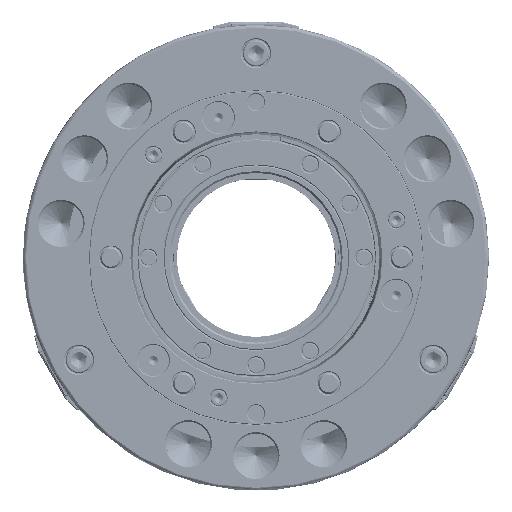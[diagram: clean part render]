
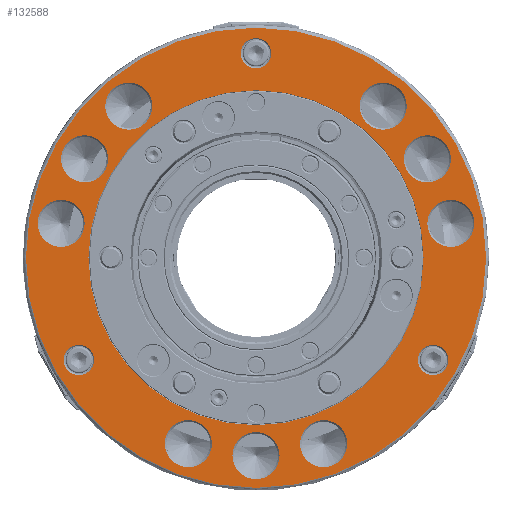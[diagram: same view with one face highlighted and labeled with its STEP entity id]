
A CAD part, front view. The second image highlights one B-rep face of the part: STEP entity #132588.
In plain terms, the highlighted planar face has unit normal (0, -1, 0).
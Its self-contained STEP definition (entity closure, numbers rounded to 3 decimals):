
#36340=PLANE('',#142976);
#37760=FACE_BOUND('',#50267,.T.);
#37761=FACE_BOUND('',#50268,.T.);
#37762=FACE_BOUND('',#50269,.T.);
#37763=FACE_BOUND('',#50270,.T.);
#37764=FACE_BOUND('',#50271,.T.);
#37765=FACE_BOUND('',#50272,.T.);
#37766=FACE_BOUND('',#50273,.T.);
#37767=FACE_BOUND('',#50274,.T.);
#37768=FACE_BOUND('',#50275,.T.);
#37769=FACE_BOUND('',#50276,.T.);
#37770=FACE_BOUND('',#50277,.T.);
#37771=FACE_BOUND('',#50278,.T.);
#37772=FACE_BOUND('',#50279,.T.);
#43110=FACE_OUTER_BOUND('',#50266,.T.);
#50266=EDGE_LOOP('',(#118241));
#50267=EDGE_LOOP('',(#118242));
#50268=EDGE_LOOP('',(#118243));
#50269=EDGE_LOOP('',(#118244));
#50270=EDGE_LOOP('',(#118245));
#50271=EDGE_LOOP('',(#118246));
#50272=EDGE_LOOP('',(#118247));
#50273=EDGE_LOOP('',(#118248));
#50274=EDGE_LOOP('',(#118249));
#50275=EDGE_LOOP('',(#118250));
#50276=EDGE_LOOP('',(#118251));
#50277=EDGE_LOOP('',(#118252));
#50278=EDGE_LOOP('',(#118253));
#50279=EDGE_LOOP('',(#118254));
#53244=CIRCLE('',#142977,261.64);
#53245=CIRCLE('',#142978,17.25);
#53246=CIRCLE('',#142979,17.25);
#53247=CIRCLE('',#142980,26.75);
#53248=CIRCLE('',#142981,26.75);
#53249=CIRCLE('',#142982,26.75);
#53250=CIRCLE('',#142983,26.75);
#53251=CIRCLE('',#142984,26.75);
#53252=CIRCLE('',#142985,26.75);
#53253=CIRCLE('',#142986,17.25);
#53254=CIRCLE('',#142987,26.75);
#53255=CIRCLE('',#142988,26.75);
#53256=CIRCLE('',#142989,26.75);
#53257=CIRCLE('',#142990,190.521);
#64247=VERTEX_POINT('',#216388);
#64248=VERTEX_POINT('',#216390);
#64249=VERTEX_POINT('',#216392);
#64250=VERTEX_POINT('',#216394);
#64251=VERTEX_POINT('',#216396);
#64252=VERTEX_POINT('',#216398);
#64253=VERTEX_POINT('',#216400);
#64254=VERTEX_POINT('',#216402);
#64255=VERTEX_POINT('',#216404);
#64256=VERTEX_POINT('',#216406);
#64257=VERTEX_POINT('',#216408);
#64258=VERTEX_POINT('',#216410);
#64259=VERTEX_POINT('',#216412);
#64260=VERTEX_POINT('',#216414);
#82806=EDGE_CURVE('',#64247,#64247,#53244,.T.);
#82807=EDGE_CURVE('',#64248,#64248,#53245,.T.);
#82808=EDGE_CURVE('',#64249,#64249,#53246,.T.);
#82809=EDGE_CURVE('',#64250,#64250,#53247,.T.);
#82810=EDGE_CURVE('',#64251,#64251,#53248,.T.);
#82811=EDGE_CURVE('',#64252,#64252,#53249,.T.);
#82812=EDGE_CURVE('',#64253,#64253,#53250,.T.);
#82813=EDGE_CURVE('',#64254,#64254,#53251,.T.);
#82814=EDGE_CURVE('',#64255,#64255,#53252,.T.);
#82815=EDGE_CURVE('',#64256,#64256,#53253,.T.);
#82816=EDGE_CURVE('',#64257,#64257,#53254,.T.);
#82817=EDGE_CURVE('',#64258,#64258,#53255,.T.);
#82818=EDGE_CURVE('',#64259,#64259,#53256,.T.);
#82819=EDGE_CURVE('',#64260,#64260,#53257,.T.);
#118241=ORIENTED_EDGE('',*,*,#82806,.F.);
#118242=ORIENTED_EDGE('',*,*,#82807,.F.);
#118243=ORIENTED_EDGE('',*,*,#82808,.F.);
#118244=ORIENTED_EDGE('',*,*,#82809,.F.);
#118245=ORIENTED_EDGE('',*,*,#82810,.F.);
#118246=ORIENTED_EDGE('',*,*,#82811,.F.);
#118247=ORIENTED_EDGE('',*,*,#82812,.F.);
#118248=ORIENTED_EDGE('',*,*,#82813,.F.);
#118249=ORIENTED_EDGE('',*,*,#82814,.F.);
#118250=ORIENTED_EDGE('',*,*,#82815,.F.);
#118251=ORIENTED_EDGE('',*,*,#82816,.F.);
#118252=ORIENTED_EDGE('',*,*,#82817,.F.);
#118253=ORIENTED_EDGE('',*,*,#82818,.F.);
#118254=ORIENTED_EDGE('',*,*,#82819,.F.);
#132588=ADVANCED_FACE('',(#43110,#37760,#37761,#37762,#37763,#37764,#37765,
#37766,#37767,#37768,#37769,#37770,#37771,#37772),#36340,.F.);
#142976=AXIS2_PLACEMENT_3D('',#216387,#174135,#174136);
#142977=AXIS2_PLACEMENT_3D('',#216389,#174137,#174138);
#142978=AXIS2_PLACEMENT_3D('',#216391,#174139,#174140);
#142979=AXIS2_PLACEMENT_3D('',#216393,#174141,#174142);
#142980=AXIS2_PLACEMENT_3D('',#216395,#174143,#174144);
#142981=AXIS2_PLACEMENT_3D('',#216397,#174145,#174146);
#142982=AXIS2_PLACEMENT_3D('',#216399,#174147,#174148);
#142983=AXIS2_PLACEMENT_3D('',#216401,#174149,#174150);
#142984=AXIS2_PLACEMENT_3D('',#216403,#174151,#174152);
#142985=AXIS2_PLACEMENT_3D('',#216405,#174153,#174154);
#142986=AXIS2_PLACEMENT_3D('',#216407,#174155,#174156);
#142987=AXIS2_PLACEMENT_3D('',#216409,#174157,#174158);
#142988=AXIS2_PLACEMENT_3D('',#216411,#174159,#174160);
#142989=AXIS2_PLACEMENT_3D('',#216413,#174161,#174162);
#142990=AXIS2_PLACEMENT_3D('',#216415,#174163,#174164);
#174135=DIRECTION('center_axis',(0.,1.,0.));
#174136=DIRECTION('ref_axis',(0.,0.,1.));
#174137=DIRECTION('center_axis',(0.,1.,0.));
#174138=DIRECTION('ref_axis',(0.,0.,1.));
#174139=DIRECTION('center_axis',(0.,-1.,0.));
#174140=DIRECTION('ref_axis',(0.5,0.,-0.866));
#174141=DIRECTION('center_axis',(0.,-1.,0.));
#174142=DIRECTION('ref_axis',(0.5,0.,0.866));
#174143=DIRECTION('center_axis',(0.,-1.,0.));
#174144=DIRECTION('ref_axis',(0.5,0.,-0.866));
#174145=DIRECTION('center_axis',(0.,-1.,0.));
#174146=DIRECTION('ref_axis',(0.5,0.,-0.866));
#174147=DIRECTION('center_axis',(0.,-1.,0.));
#174148=DIRECTION('ref_axis',(0.5,0.,-0.866));
#174149=DIRECTION('center_axis',(0.,-1.,0.));
#174150=DIRECTION('ref_axis',(0.5,0.,0.866));
#174151=DIRECTION('center_axis',(0.,-1.,0.));
#174152=DIRECTION('ref_axis',(0.5,0.,0.866));
#174153=DIRECTION('center_axis',(0.,-1.,0.));
#174154=DIRECTION('ref_axis',(0.5,0.,0.866));
#174155=DIRECTION('center_axis',(0.,-1.,0.));
#174156=DIRECTION('ref_axis',(-1.,0.,0.));
#174157=DIRECTION('center_axis',(0.,-1.,0.));
#174158=DIRECTION('ref_axis',(-1.,0.,0.));
#174159=DIRECTION('center_axis',(0.,-1.,0.));
#174160=DIRECTION('ref_axis',(-1.,0.,0.));
#174161=DIRECTION('center_axis',(0.,-1.,0.));
#174162=DIRECTION('ref_axis',(-1.,0.,0.));
#174163=DIRECTION('center_axis',(0.,-1.,0.));
#174164=DIRECTION('ref_axis',(0.,0.,1.));
#216387=CARTESIAN_POINT('Origin',(265.,0.,0.));
#216388=CARTESIAN_POINT('',(0.,0.,
-261.64));
#216389=CARTESIAN_POINT('Origin',(0.,0.,0.));
#216390=CARTESIAN_POINT('',(-209.976,0.,-101.311));
#216391=CARTESIAN_POINT('Origin',(-201.351,0.,
-116.25));
#216392=CARTESIAN_POINT('',(192.726,0.,-131.189));
#216393=CARTESIAN_POINT('Origin',(201.351,0.,
-116.25));
#216394=CARTESIAN_POINT('',(208.207,0.,62.237));
#216395=CARTESIAN_POINT('Origin',(221.582,0.,
39.071));
#216396=CARTESIAN_POINT('',(181.481,0.,135.666));
#216397=CARTESIAN_POINT('Origin',(194.856,0.,
112.5));
#216398=CARTESIAN_POINT('',(131.252,0.,195.526));
#216399=CARTESIAN_POINT('Origin',(144.627,0.,
172.36));
#216400=CARTESIAN_POINT('',(-158.002,0.,149.194));
#216401=CARTESIAN_POINT('Origin',(-144.627,0.,
172.36));
#216402=CARTESIAN_POINT('',(-208.231,0.,89.334));
#216403=CARTESIAN_POINT('Origin',(-194.856,0.,
112.5));
#216404=CARTESIAN_POINT('',(-234.957,0.,15.905));
#216405=CARTESIAN_POINT('Origin',(-221.582,0.,
39.071));
#216406=CARTESIAN_POINT('',(17.25,0.,232.5));
#216407=CARTESIAN_POINT('Origin',(0.,0.,232.5));
#216408=CARTESIAN_POINT('',(-50.205,0.,-211.431));
#216409=CARTESIAN_POINT('Origin',(-76.955,0.,
-211.431));
#216410=CARTESIAN_POINT('',(26.75,0.,-225.));
#216411=CARTESIAN_POINT('Origin',(0.,0.,-225.));
#216412=CARTESIAN_POINT('',(103.705,0.,-211.431));
#216413=CARTESIAN_POINT('Origin',(76.955,0.,
-211.431));
#216414=CARTESIAN_POINT('',(0.,0.,-190.521));
#216415=CARTESIAN_POINT('Origin',(0.,0.,0.));
